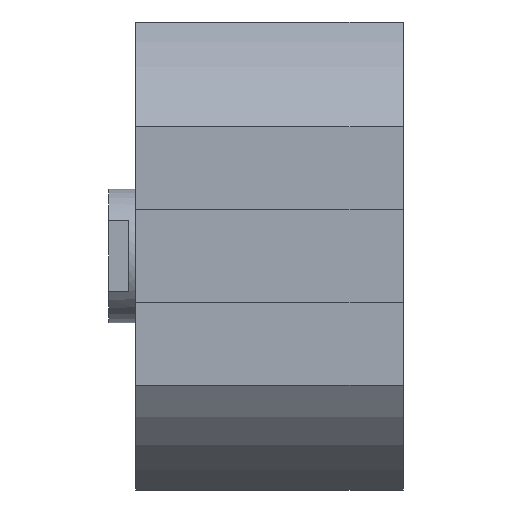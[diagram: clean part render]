
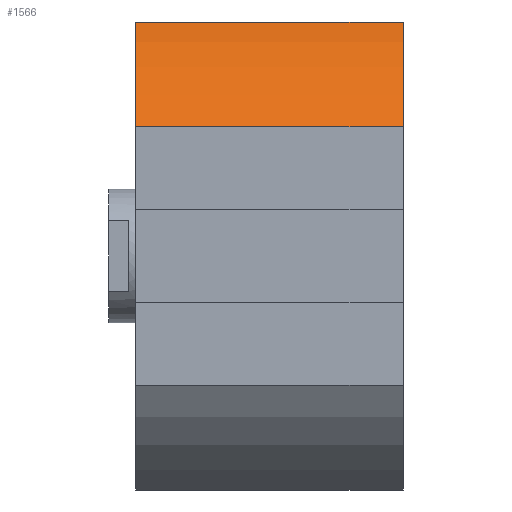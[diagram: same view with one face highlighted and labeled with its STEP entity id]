
A CAD part, left-side view. The second image highlights one B-rep face of the part: STEP entity #1566.
In plain terms, the highlighted cylindrical face has radius 40 mm (diameter 80 mm), a partial arc.
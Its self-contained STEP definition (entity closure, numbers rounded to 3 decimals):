
#215 = CARTESIAN_POINT ( 'NONE',  ( -35., 0., 19.365 ) ) ;
#245 = ORIENTED_EDGE ( 'NONE', *, *, #2396, .T. ) ;
#317 = VECTOR ( 'NONE', #2315, 1000. ) ;
#400 = EDGE_CURVE ( 'NONE', #2206, #2515, #2071, .T. ) ;
#405 = DIRECTION ( 'NONE',  ( 0., 1., 0. ) ) ;
#438 = CARTESIAN_POINT ( 'NONE',  ( -35., -40., 19.365 ) ) ;
#460 = AXIS2_PLACEMENT_3D ( 'NONE', #633, #405, #3076 ) ;
#491 = ORIENTED_EDGE ( 'NONE', *, *, #2680, .F. ) ;
#503 = FACE_OUTER_BOUND ( 'NONE', #1490, .T. ) ;
#633 = CARTESIAN_POINT ( 'NONE',  ( 0., -40., 0. ) ) ;
#924 = EDGE_CURVE ( 'NONE', #1463, #1081, #1820, .T. ) ;
#954 = CARTESIAN_POINT ( 'NONE',  ( 0., 0., 0. ) ) ;
#1081 = VERTEX_POINT ( 'NONE', #3013 ) ;
#1168 = LINE ( 'NONE', #438, #317 ) ;
#1206 = DIRECTION ( 'NONE',  ( 0., 0., 1. ) ) ;
#1267 = CYLINDRICAL_SURFACE ( 'NONE', #460, 40. ) ;
#1334 = ORIENTED_EDGE ( 'NONE', *, *, #924, .T. ) ;
#1343 = ORIENTED_EDGE ( 'NONE', *, *, #400, .F. ) ;
#1463 = VERTEX_POINT ( 'NONE', #1669 ) ;
#1490 = EDGE_LOOP ( 'NONE', ( #1343, #491, #1334, #245 ) ) ;
#1510 = LINE ( 'NONE', #1932, #2258 ) ;
#1566 = ADVANCED_FACE ( 'NONE', ( #503 ), #1267, .T. ) ;
#1573 = DIRECTION ( 'NONE',  ( 0., 1., 0. ) ) ;
#1631 = DIRECTION ( 'NONE',  ( 0., 1., 0. ) ) ;
#1669 = CARTESIAN_POINT ( 'NONE',  ( -35., -40., 19.365 ) ) ;
#1688 = AXIS2_PLACEMENT_3D ( 'NONE', #954, #2260, #1206 ) ;
#1820 = CIRCLE ( 'NONE', #2712, 40. ) ;
#1932 = CARTESIAN_POINT ( 'NONE',  ( -19.365, -40., 35. ) ) ;
#1988 = CARTESIAN_POINT ( 'NONE',  ( -19.365, 0., 35. ) ) ;
#2071 = CIRCLE ( 'NONE', #1688, 40. ) ;
#2206 = VERTEX_POINT ( 'NONE', #215 ) ;
#2258 = VECTOR ( 'NONE', #1631, 1000. ) ;
#2260 = DIRECTION ( 'NONE',  ( 0., 1., 0. ) ) ;
#2315 = DIRECTION ( 'NONE',  ( 0., 1., 0. ) ) ;
#2396 = EDGE_CURVE ( 'NONE', #1081, #2515, #1510, .T. ) ;
#2515 = VERTEX_POINT ( 'NONE', #1988 ) ;
#2680 = EDGE_CURVE ( 'NONE', #1463, #2206, #1168, .T. ) ;
#2712 = AXIS2_PLACEMENT_3D ( 'NONE', #3185, #1573, #2919 ) ;
#2919 = DIRECTION ( 'NONE',  ( 0., 0., 1. ) ) ;
#3013 = CARTESIAN_POINT ( 'NONE',  ( -19.365, -40., 35. ) ) ;
#3076 = DIRECTION ( 'NONE',  ( 0., 0., 1. ) ) ;
#3185 = CARTESIAN_POINT ( 'NONE',  ( 0., -40., 0. ) ) ;
